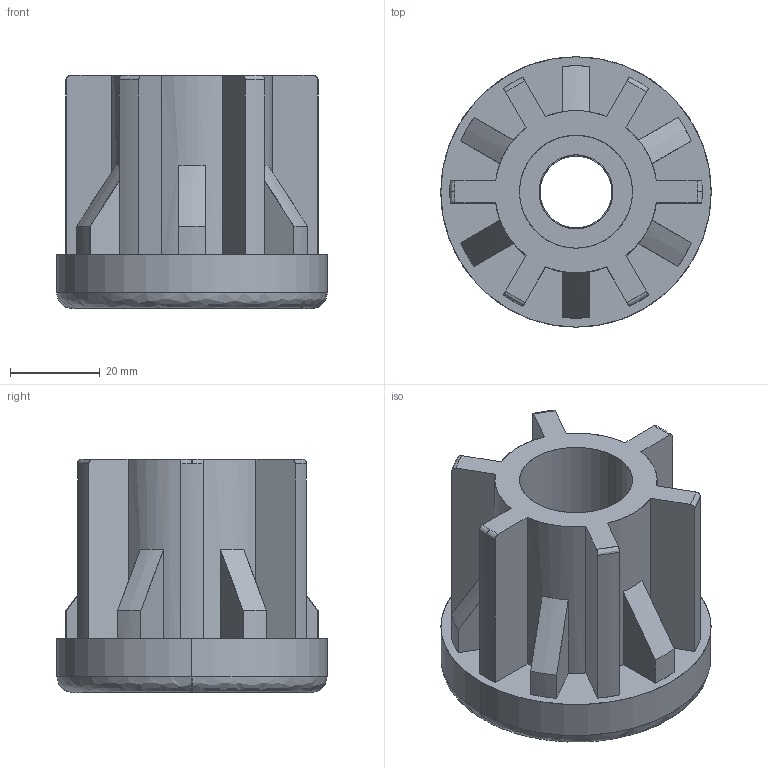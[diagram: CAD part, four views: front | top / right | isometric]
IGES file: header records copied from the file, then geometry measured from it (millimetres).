
Start section: SolidWorks IGES file using analytic representation for surfaces
Global section: file name: Y:\Tecnodin, S.L\PLAPP-Dirección - Documentos\General\Models CAD\Actiby\42006460316.IGS; native system: SolidWorks 2018; preprocessor: SolidWorks 2018; author: GerPro; date: 200225.182722; units: millimetre
Bounding box: 60.3 x 60.3 x 52 mm (x, y, z)
Surface area: 23197 mm2 (no closed solid volume)
Topology: 0 solids, 0 shells, 107 faces, 1150 edges, 1150 vertices
Faces by surface type: revolution 54, bspline 53
